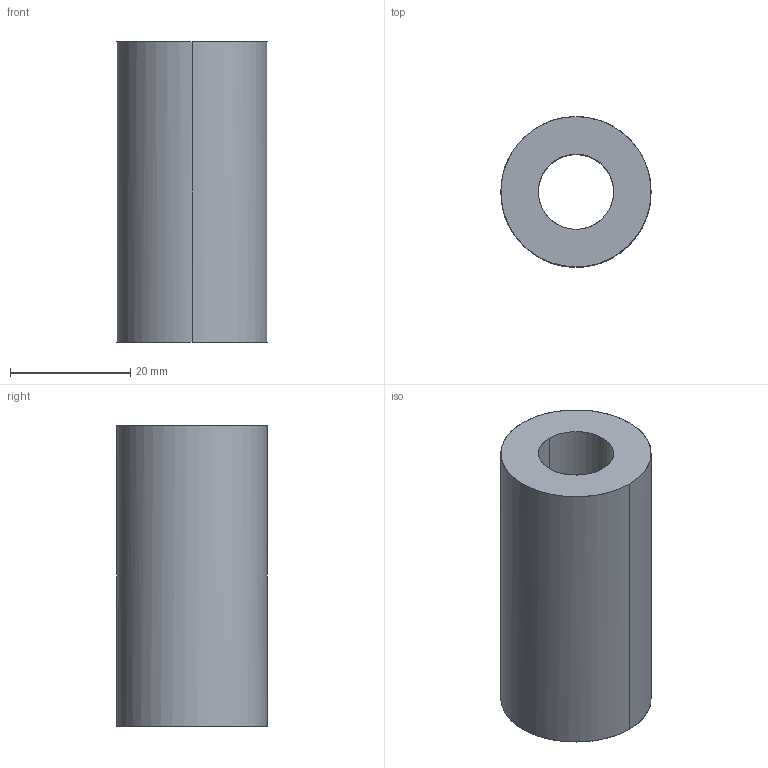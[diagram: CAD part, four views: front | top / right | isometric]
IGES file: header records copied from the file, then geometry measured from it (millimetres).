
Global section: file name: E:\UnigraphicsGraphicData\MISUMI_PRESS-PARTS\IGES\3d_swv25-50_00757_r00.igs; native system: NX V5.0; preprocessor: UGS NX IGES V5.0; author: MISUMI; date: 20110105.163300; units: millimetre
Bounding box: 25 x 25 x 50 mm (x, y, z)
Surface area: 6629.2 mm2 (no closed solid volume)
Topology: 0 solids, 0 shells, 6 faces, 48 edges, 48 vertices
Faces by surface type: bspline 6
